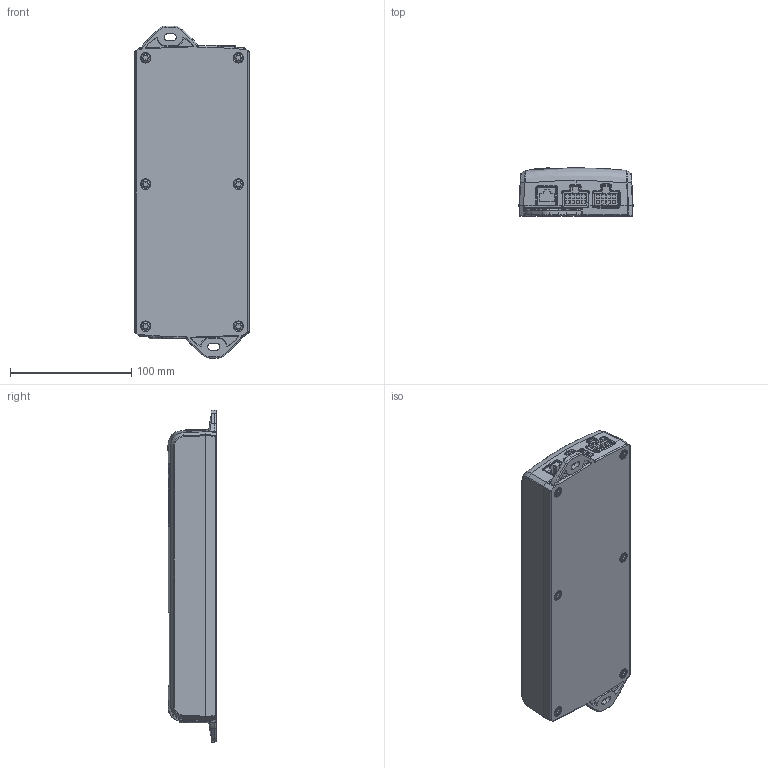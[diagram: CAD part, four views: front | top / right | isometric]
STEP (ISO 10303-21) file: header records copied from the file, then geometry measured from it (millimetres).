
FILE_DESCRIPTION (( 'STEP AP203' ), '1' );
FILE_NAME ('3D_TC15.STEP', '2017-06-07T06:06:20', ( '' ), ( '' ), 'SwSTEP 2.0', 'SolidWorks 2015', '' );
FILE_SCHEMA (( 'CONFIG_CONTROL_DESIGN' ));
Products named in the file (1): 3D_TC15
Bounding box: 94 x 39.85 x 273.4 mm (x, y, z)
Volume: 851600.6 mm3; surface area: 73639.8 mm2
Topology: 1 solids, 2 shells, 1069 faces, 2772 edges, 1758 vertices
Faces by surface type: plane 448, bspline 319, cylinder 144, cone 94, torus 48, sphere 16
Entity records: 41494 total; most frequent: CARTESIAN_POINT 17959, ORIENTED_EDGE 5512, DIRECTION 3901, EDGE_CURVE 2756, VERTEX_POINT 1758, AXIS2_PLACEMENT_3D 1334, LINE 1233, VECTOR 1233
